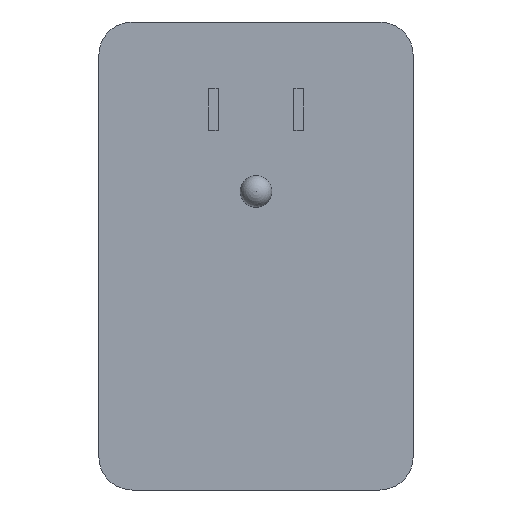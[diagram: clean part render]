
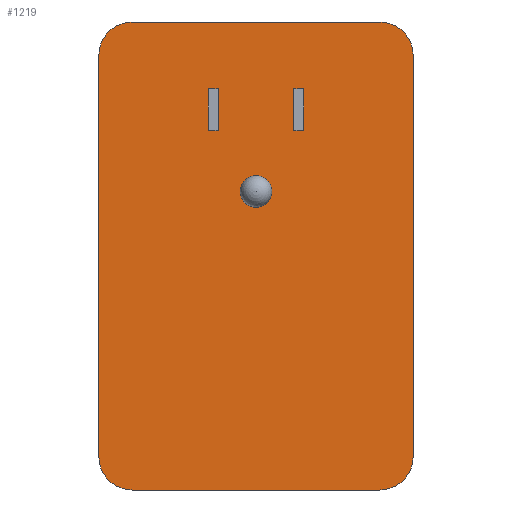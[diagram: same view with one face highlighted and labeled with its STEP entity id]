
A CAD part, top view. The second image highlights one B-rep face of the part: STEP entity #1219.
In plain terms, the highlighted planar face has unit normal (0, 0, 1).
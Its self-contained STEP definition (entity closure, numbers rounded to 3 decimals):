
#827=CARTESIAN_POINT('',(21.125,44.625,32.));
#828=VERTEX_POINT('',#827);
#835=CARTESIAN_POINT('',(25.875,44.625,32.));
#836=VERTEX_POINT('',#835);
#837=CARTESIAN_POINT('',(23.5,44.625,32.));
#838=DIRECTION('',(0.,0.,-1.));
#839=DIRECTION('',(1.,0.,0.));
#840=AXIS2_PLACEMENT_3D('',#837,#838,#839);
#841=CIRCLE('',#840,2.375);
#842=EDGE_CURVE('',#836,#828,#841,.T.);
#844=CARTESIAN_POINT('',(23.5,44.625,32.));
#845=DIRECTION('',(0.,0.,-1.));
#846=DIRECTION('',(1.,0.,0.));
#847=AXIS2_PLACEMENT_3D('',#844,#845,#846);
#848=CIRCLE('',#847,2.375);
#849=EDGE_CURVE('',#828,#836,#848,.T.);
#871=CARTESIAN_POINT('',(29.16,53.75,32.));
#872=VERTEX_POINT('',#871);
#879=CARTESIAN_POINT('',(30.61,53.75,32.));
#880=VERTEX_POINT('',#879);
#881=CARTESIAN_POINT('',(65.868,53.75,32.));
#882=DIRECTION('',(-1.,0.,0.));
#883=VECTOR('',#882,14.5);
#884=LINE('',#881,#883);
#885=EDGE_CURVE('',#880,#872,#884,.T.);
#909=CARTESIAN_POINT('',(29.16,60.,32.));
#910=VERTEX_POINT('',#909);
#917=CARTESIAN_POINT('',(29.16,124.063,32.));
#918=DIRECTION('',(0.,1.,0.));
#919=VECTOR('',#918,62.5);
#920=LINE('',#917,#919);
#921=EDGE_CURVE('',#872,#910,#920,.T.);
#940=CARTESIAN_POINT('',(30.61,60.,32.));
#941=VERTEX_POINT('',#940);
#948=CARTESIAN_POINT('',(51.368,60.,32.));
#949=DIRECTION('',(1.,0.,-0.));
#950=VECTOR('',#949,14.5);
#951=LINE('',#948,#950);
#952=EDGE_CURVE('',#910,#941,#951,.T.);
#970=CARTESIAN_POINT('',(30.61,186.563,32.));
#971=DIRECTION('',(0.,-1.,0.));
#972=VECTOR('',#971,62.5);
#973=LINE('',#970,#972);
#974=EDGE_CURVE('',#941,#880,#973,.T.);
#1007=CARTESIAN_POINT('',(17.84,60.,32.));
#1008=VERTEX_POINT('',#1007);
#1015=CARTESIAN_POINT('',(16.39,60.,32.));
#1016=VERTEX_POINT('',#1015);
#1017=CARTESIAN_POINT('',(-18.868,60.,32.));
#1018=DIRECTION('',(1.,0.,-0.));
#1019=VECTOR('',#1018,14.5);
#1020=LINE('',#1017,#1019);
#1021=EDGE_CURVE('',#1016,#1008,#1020,.T.);
#1045=CARTESIAN_POINT('',(17.84,53.75,32.));
#1046=VERTEX_POINT('',#1045);
#1053=CARTESIAN_POINT('',(17.84,186.563,32.));
#1054=DIRECTION('',(0.,-1.,0.));
#1055=VECTOR('',#1054,62.5);
#1056=LINE('',#1053,#1055);
#1057=EDGE_CURVE('',#1008,#1046,#1056,.T.);
#1076=CARTESIAN_POINT('',(16.39,53.75,32.));
#1077=VERTEX_POINT('',#1076);
#1084=CARTESIAN_POINT('',(-4.368,53.75,32.));
#1085=DIRECTION('',(-1.,0.,0.));
#1086=VECTOR('',#1085,14.5);
#1087=LINE('',#1084,#1086);
#1088=EDGE_CURVE('',#1046,#1077,#1087,.T.);
#1106=CARTESIAN_POINT('',(16.39,124.063,32.));
#1107=DIRECTION('',(0.,1.,0.));
#1108=VECTOR('',#1107,62.5);
#1109=LINE('',#1106,#1108);
#1110=EDGE_CURVE('',#1077,#1016,#1109,.T.);
#1128=CARTESIAN_POINT('',(23.5,35.,32.));
#1129=DIRECTION('',(0.,0.,1.));
#1130=DIRECTION('',(1.,0.,0.));
#1131=AXIS2_PLACEMENT_3D('',#1128,#1129,#1130);
#1132=PLANE('',#1131);
#1133=ORIENTED_EDGE('',*,*,#842,.T.);
#1134=ORIENTED_EDGE('',*,*,#849,.T.);
#1135=EDGE_LOOP('',(#1133,#1134));
#1136=FACE_BOUND('',#1135,.T.);
#1137=CARTESIAN_POINT('',(0.,65.,32.));
#1138=VERTEX_POINT('',#1137);
#1139=CARTESIAN_POINT('',(5.,70.,32.));
#1140=VERTEX_POINT('',#1139);
#1141=CARTESIAN_POINT('',(5.,65.,32.));
#1142=DIRECTION('',(0.,0.,-1.));
#1143=DIRECTION('',(1.,0.,0.));
#1144=AXIS2_PLACEMENT_3D('',#1141,#1142,#1143);
#1145=CIRCLE('',#1144,5.);
#1146=EDGE_CURVE('',#1138,#1140,#1145,.T.);
#1147=ORIENTED_EDGE('',*,*,#1146,.F.);
#1148=CARTESIAN_POINT('',(0.,5.,32.));
#1149=VERTEX_POINT('',#1148);
#1150=CARTESIAN_POINT('',(0.,5.,32.));
#1151=DIRECTION('',(0.,1.,0.));
#1152=VECTOR('',#1151,600.);
#1153=LINE('',#1150,#1152);
#1154=EDGE_CURVE('',#1149,#1138,#1153,.T.);
#1155=ORIENTED_EDGE('',*,*,#1154,.F.);
#1156=CARTESIAN_POINT('',(5.,0.,32.));
#1157=VERTEX_POINT('',#1156);
#1158=CARTESIAN_POINT('',(5.,5.,32.));
#1159=DIRECTION('',(0.,0.,-1.));
#1160=DIRECTION('',(1.,0.,0.));
#1161=AXIS2_PLACEMENT_3D('',#1158,#1159,#1160);
#1162=CIRCLE('',#1161,5.);
#1163=EDGE_CURVE('',#1157,#1149,#1162,.T.);
#1164=ORIENTED_EDGE('',*,*,#1163,.F.);
#1165=CARTESIAN_POINT('',(42.,-0.,32.));
#1166=VERTEX_POINT('',#1165);
#1167=CARTESIAN_POINT('',(42.,0.,32.));
#1168=DIRECTION('',(-1.,0.,0.));
#1169=VECTOR('',#1168,370.);
#1170=LINE('',#1167,#1169);
#1171=EDGE_CURVE('',#1166,#1157,#1170,.T.);
#1172=ORIENTED_EDGE('',*,*,#1171,.F.);
#1173=CARTESIAN_POINT('',(47.,5.,32.));
#1174=VERTEX_POINT('',#1173);
#1175=CARTESIAN_POINT('',(42.,5.,32.));
#1176=DIRECTION('',(0.,0.,-1.));
#1177=DIRECTION('',(1.,0.,0.));
#1178=AXIS2_PLACEMENT_3D('',#1175,#1176,#1177);
#1179=CIRCLE('',#1178,5.);
#1180=EDGE_CURVE('',#1174,#1166,#1179,.T.);
#1181=ORIENTED_EDGE('',*,*,#1180,.F.);
#1182=CARTESIAN_POINT('',(47.,65.,32.));
#1183=VERTEX_POINT('',#1182);
#1184=CARTESIAN_POINT('',(47.,65.,32.));
#1185=DIRECTION('',(0.,-1.,0.));
#1186=VECTOR('',#1185,600.);
#1187=LINE('',#1184,#1186);
#1188=EDGE_CURVE('',#1183,#1174,#1187,.T.);
#1189=ORIENTED_EDGE('',*,*,#1188,.F.);
#1190=CARTESIAN_POINT('',(42.,70.,32.));
#1191=VERTEX_POINT('',#1190);
#1192=CARTESIAN_POINT('',(42.,65.,32.));
#1193=DIRECTION('',(0.,0.,-1.));
#1194=DIRECTION('',(1.,0.,0.));
#1195=AXIS2_PLACEMENT_3D('',#1192,#1193,#1194);
#1196=CIRCLE('',#1195,5.);
#1197=EDGE_CURVE('',#1191,#1183,#1196,.T.);
#1198=ORIENTED_EDGE('',*,*,#1197,.F.);
#1199=CARTESIAN_POINT('',(5.,70.,32.));
#1200=DIRECTION('',(1.,0.,0.));
#1201=VECTOR('',#1200,370.);
#1202=LINE('',#1199,#1201);
#1203=EDGE_CURVE('',#1140,#1191,#1202,.T.);
#1204=ORIENTED_EDGE('',*,*,#1203,.F.);
#1205=EDGE_LOOP('',(#1147,#1155,#1164,#1172,#1181,#1189,#1198,#1204));
#1206=FACE_BOUND('',#1205,.T.);
#1207=ORIENTED_EDGE('',*,*,#1021,.T.);
#1208=ORIENTED_EDGE('',*,*,#1057,.T.);
#1209=ORIENTED_EDGE('',*,*,#1088,.T.);
#1210=ORIENTED_EDGE('',*,*,#1110,.T.);
#1211=EDGE_LOOP('',(#1207,#1208,#1209,#1210));
#1212=FACE_BOUND('',#1211,.T.);
#1213=ORIENTED_EDGE('',*,*,#885,.T.);
#1214=ORIENTED_EDGE('',*,*,#921,.T.);
#1215=ORIENTED_EDGE('',*,*,#952,.T.);
#1216=ORIENTED_EDGE('',*,*,#974,.T.);
#1217=EDGE_LOOP('',(#1213,#1214,#1215,#1216));
#1218=FACE_BOUND('',#1217,.T.);
#1219=ADVANCED_FACE('',(#1136,#1206,#1212,#1218),#1132,.T.);
